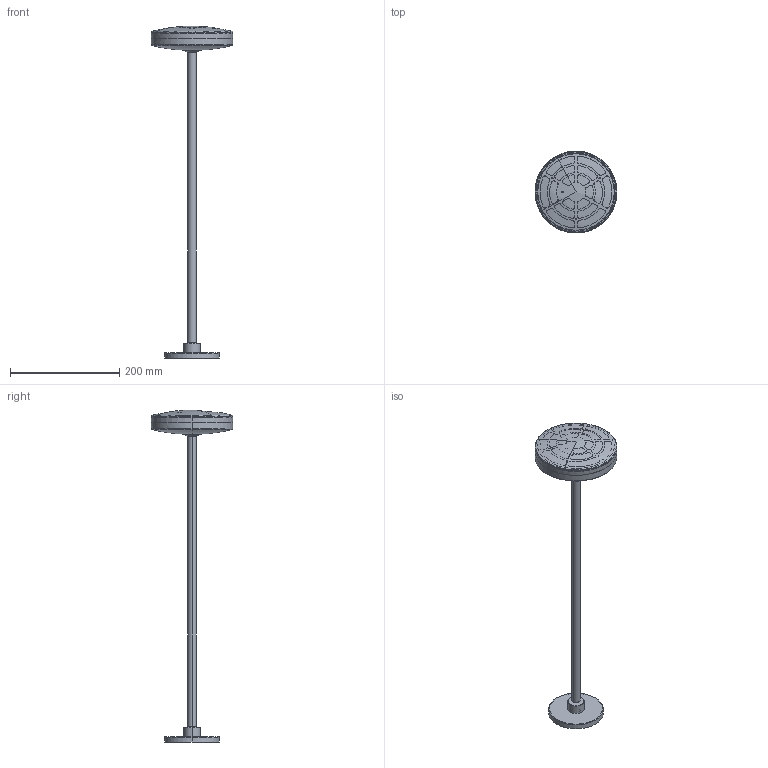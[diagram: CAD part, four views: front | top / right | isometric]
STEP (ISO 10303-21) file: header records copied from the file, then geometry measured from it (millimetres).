
FILE_DESCRIPTION (( 'STEP AP214' ), '1' );
FILE_NAME ('SHEDIR-H2076000GR.STEP', '2026-01-15T08:03:57', ( '' ), ( '' ), 'SwSTEP 2.0', 'SolidWorks 2025', '' );
FILE_SCHEMA (( 'AUTOMOTIVE_DESIGN' ));
Length unit declared in the file: millimetre
Products named in the file (8): Part30; Part417; Part386; 灯罩; 连接件01; SHEDIR-H2076000GR; 连接件; Part30.1
Assembly tree (7 placements, depth 2):
  SHEDIR-H2076000GR
    灯罩
    连接件01
    连接件
    Part30
    Part30.1
    Part386
    Part417
Bounding box: 150 x 149.97 x 607.8 mm (x, y, z)
Volume: 176226.1 mm3; surface area: 188817.7 mm2
Topology: 7 solids, 7 shells, 563 faces, 1377 edges, 867 vertices
Faces by surface type: cone 305, cylinder 126, plane 84, torus 26, sphere 19, bspline 3
Entity records: 21216 total; most frequent: CARTESIAN_POINT 7555, DIRECTION 2944, ORIENTED_EDGE 2754, EDGE_CURVE 1377, AXIS2_PLACEMENT_3D 1204, VERTEX_POINT 867, CIRCLE 634, EDGE_LOOP 616
